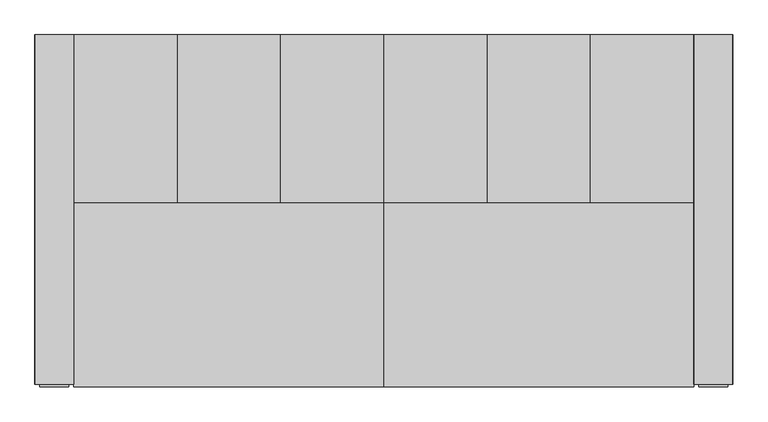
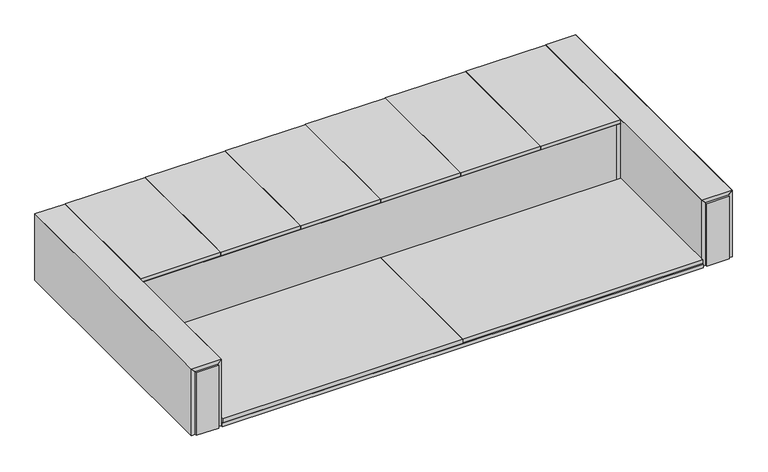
"""IFC4 building model written with IfcOpenShell, lengths in millimetres: proxy geometry, BASYS^OFFICE 4_HIGH RISE-12x55x108-6 DOORS."""

from ifc_helpers import new_model, si_unit, frame, origin, origin_with_axes, place, context, project, spatial, polyline, outline, extrude, source, transform, mapped, element, save


def generic_models_349c50b2(model_context):
    return source(origin(), model_context, "Body", "SweptSolid", [
        extrude(outline(polyline([(2457.45, 1384.3), (2457.45, 723.9), (2438.4, 723.9), (2438.4, 1384.3), (2457.45, 1384.3)])), frame((0.0, 0.0, 19.05), z_axis=(0.0, 0.0, 1.0), x_axis=(1.0, 0.0, 0.0)), (0.0, 0.0, 1.0), 314.325),
        extrude(outline(polyline([(355.6, -133.35), (279.4, -57.15), (355.6, 19.05), (355.6, -133.35)])), frame((0.0, 9.525, 0.0), z_axis=(0.0, 1.0, 0.0), x_axis=(0.0, 0.0, 1.0)), (0.0, 0.0, 1.0), 1374.775),
        extrude(outline(polyline([(2590.8, 0.0), (2476.5, 0.0), (2476.5, 28.575), (2590.8, 28.575), (2590.8, 0.0)])), origin_with_axes(), (0.0, 0.0, 1.0), 336.55),
        extrude(outline(polyline([(355.6, 2457.45), (0.0, 2457.45), (0.0, 2476.5), (336.55, 2476.5), (355.6, 2457.45)])), frame((0.0, 9.525, 0.0), z_axis=(0.0, 1.0, 0.0), x_axis=(0.0, 0.0, 1.0)), (0.0, 0.0, 1.0), 1374.775),
        extrude(outline(polyline([(0.0, -133.35), (0.0, -114.3), (336.55, -114.3), (355.6, -133.35), (0.0, -133.35)])), frame((0.0, 9.525, 0.0), z_axis=(0.0, 1.0, 0.0), x_axis=(0.0, 0.0, 1.0)), (0.0, 0.0, 1.0), 1374.775),
        extrude(outline(polyline([(1237.059375, 723.9), (833.4375, 723.9), (833.4375, 1384.3), (1237.059375, 1384.3), (1237.059375, 723.9)])), frame((0.0, 0.0, 336.55), z_axis=(0.0, 0.0, 1.0), x_axis=(1.0, 0.0, 0.0)), (0.0, 0.0, 1.0), 19.05),
        extrude(outline(polyline([(425.053125, 723.9), (21.43125, 723.9), (21.43125, 1384.3), (425.053125, 1384.3), (425.053125, 723.9)])), frame((0.0, 0.0, 336.55), z_axis=(0.0, 0.0, 1.0), x_axis=(1.0, 0.0, 0.0)), (0.0, 0.0, 1.0), 19.05),
        extrude(outline(polyline([(1237.853125, 0.79375), (19.84375, 0.79375), (19.84375, 723.10625), (1237.853125, 723.10625), (1237.853125, 0.79375)])), frame((0.0, 0.0, 22.225), z_axis=(0.0, 0.0, 1.0), x_axis=(1.0, 0.0, 0.0)), (0.0, 0.0, 1.0), 19.05),
        extrude(outline(polyline([(1239.440625, 723.9), (1239.440625, 1384.3), (1643.0625, 1384.3), (1643.0625, 723.9), (1239.440625, 723.9)])), frame((0.0, 0.0, 336.55), z_axis=(0.0, 0.0, 1.0), x_axis=(1.0, 0.0, 0.0)), (0.0, 0.0, 1.0), 19.05),
        extrude(outline(polyline([(427.434375, 723.9), (427.434375, 1384.3), (831.05625, 1384.3), (831.05625, 723.9), (427.434375, 723.9)])), frame((0.0, 0.0, 336.55), z_axis=(0.0, 0.0, 1.0), x_axis=(1.0, 0.0, 0.0)), (0.0, 0.0, 1.0), 19.05),
        extrude(outline(polyline([(0.0, 0.0), (-114.3, 0.0), (-114.3, 28.575), (0.0, 28.575), (0.0, 0.0)])), origin_with_axes(), (0.0, 0.0, 1.0), 336.55),
        extrude(outline(polyline([(2438.4, 1384.3), (2438.4, 1365.25), (38.1, 1365.25), (38.1, 1384.3), (2438.4, 1384.3)])), frame((0.0, 0.0, 19.05), z_axis=(0.0, 0.0, 1.0), x_axis=(1.0, 0.0, 0.0)), (0.0, 0.0, 1.0), 314.325),
        extrude(outline(polyline([(2456.65625, 0.79375), (1238.646875, 0.79375), (1238.646875, 723.10625), (2456.65625, 723.10625), (2456.65625, 0.79375)])), frame((0.0, 0.0, 22.225), z_axis=(0.0, 0.0, 1.0), x_axis=(1.0, 0.0, 0.0)), (0.0, 0.0, 1.0), 19.05),
        extrude(outline(polyline([(2455.06875, 723.9), (2051.446875, 723.9), (2051.446875, 1384.3), (2455.06875, 1384.3), (2455.06875, 723.9)])), frame((0.0, 0.0, 336.55), z_axis=(0.0, 0.0, 1.0), x_axis=(1.0, 0.0, 0.0)), (0.0, 0.0, 1.0), 19.05),
        extrude(outline(polyline([(2049.065625, 723.9), (1645.44375, 723.9), (1645.44375, 1384.3), (2049.065625, 1384.3), (2049.065625, 723.9)])), frame((0.0, 0.0, 336.55), z_axis=(0.0, 0.0, 1.0), x_axis=(1.0, 0.0, 0.0)), (0.0, 0.0, 1.0), 19.05),
        extrude(outline(polyline([(2476.5, 1384.3), (2590.8, 1384.3), (2590.8, 1365.25), (2476.5, 1365.25), (2476.5, 1384.3)])), origin_with_axes(), (0.0, 0.0, 1.0), 336.55),
        extrude(outline(polyline([(19.05, 1384.3), (38.1, 1384.3), (38.1, 723.9), (19.05, 723.9), (19.05, 1384.3)])), frame((0.0, 0.0, 19.05), z_axis=(0.0, 0.0, 1.0), x_axis=(1.0, 0.0, 0.0)), (0.0, 0.0, 1.0), 314.325),
        extrude(outline(polyline([(355.6, 2609.85), (336.55, 2590.8), (0.0, 2590.8), (0.0, 2609.85), (355.6, 2609.85)])), frame((0.0, 9.525, 0.0), z_axis=(0.0, 1.0, 0.0), x_axis=(0.0, 0.0, 1.0)), (0.0, 0.0, 1.0), 1374.775),
        extrude(outline(polyline([(336.55, 0.0), (0.0, 0.0), (0.0, 19.05), (355.6, 19.05), (336.55, 0.0)])), frame((0.0, 9.525, 0.0), z_axis=(0.0, 1.0, 0.0), x_axis=(0.0, 0.0, 1.0)), (0.0, 0.0, 1.0), 1374.775),
        extrude(outline(polyline([(19.05, 0.0), (19.05, 1384.3), (2457.45, 1384.3), (2457.45, 0.0), (19.05, 0.0)])), origin_with_axes(), (0.0, 0.0, 1.0), 19.05),
        extrude(outline(polyline([(-114.3, 1384.3), (0.0, 1384.3), (0.0, 1365.25), (-114.3, 1365.25), (-114.3, 1384.3)])), origin_with_axes(), (0.0, 0.0, 1.0), 336.55),
        extrude(outline(polyline([(355.6, 2457.45), (279.4, 2533.65), (355.6, 2609.85), (355.6, 2457.45)])), frame((0.0, 9.525, 0.0), z_axis=(0.0, 1.0, 0.0), x_axis=(0.0, 0.0, 1.0)), (0.0, 0.0, 1.0), 1374.775),
        extrude(outline(polyline([(2438.4, 723.9), (38.1, 723.9), (38.1, 742.95), (2438.4, 742.95), (2438.4, 723.9)])), frame((0.0, 0.0, 19.05), z_axis=(0.0, 0.0, 1.0), x_axis=(1.0, 0.0, 0.0)), (0.0, 0.0, 1.0), 314.325),
    ])


if __name__ == "__main__":
    model = new_model("IFC4")
    model_context = context("Model", 3, world=origin())
    ifc_project = project(units=[si_unit("LENGTHUNIT", "METRE", prefix="MILLI")], contexts=[model_context])
    site = spatial("IfcSite", under=ifc_project)
    building = spatial("IfcBuilding", under=site)
    placement = place(None, origin())
    generic_models_shape = generic_models_349c50b2(model_context)
    element("IfcBuildingElementProxy", 1, Name="BASYS^OFFICE 4_HIGH RISE-12x55x108-6 DOORS", ObjectType="BASYS^OFFICE 4_HIGH RISE-12x55x108-6 DOORS", at=placement, inside=building, context=model_context, shape_type="MappedRepresentation", body=[
        mapped(generic_models_shape, transform((0.0, 0.0, 0.0), x_axis=(1.0, 0.0, 0.0), y_axis=(0.0, 1.0, 0.0), z_axis=(0.0, 0.0, 1.0))),
    ])
    save(model, "model.ifc")
